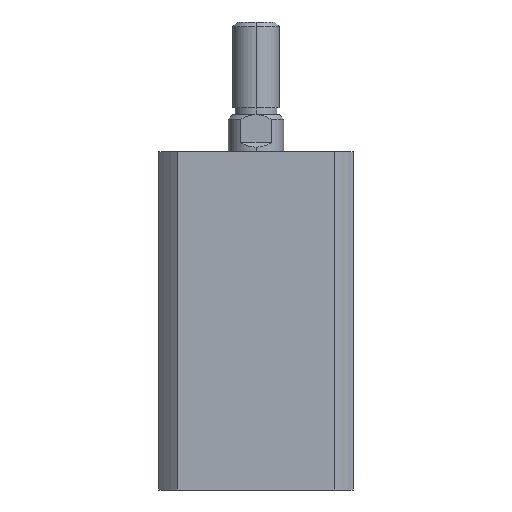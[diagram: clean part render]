
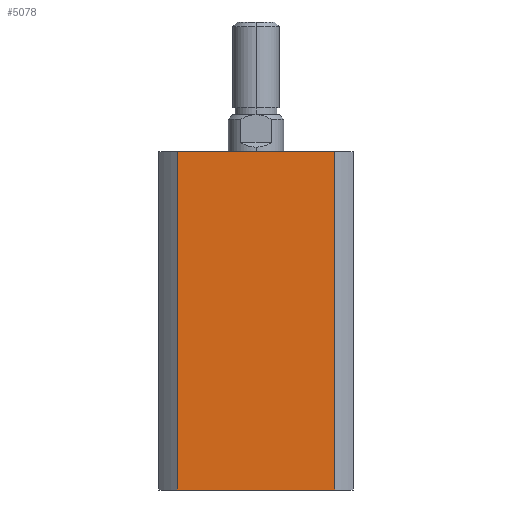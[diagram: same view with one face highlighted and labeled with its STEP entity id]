
A CAD part, left-side view. The second image highlights one B-rep face of the part: STEP entity #5078.
In plain terms, the highlighted planar face has unit normal (-1, 0, 0).
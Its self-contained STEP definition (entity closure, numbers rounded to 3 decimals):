
#174 = CARTESIAN_POINT ( 'NONE',  ( -21., 16.971, 0. ) ) ;
#254 = CARTESIAN_POINT ( 'NONE',  ( -21., -16.971, 0. ) ) ;
#869 = DIRECTION ( 'NONE',  ( 0., 1., 0. ) ) ;
#870 = DIRECTION ( 'NONE',  ( 1., 0., 0. ) ) ;
#896 = PLANE ( 'NONE',  #3380 ) ;
#920 = CARTESIAN_POINT ( 'NONE',  ( -21., 21., 73. ) ) ;
#965 = LINE ( 'NONE', #3848, #969 ) ;
#969 = VECTOR ( 'NONE', #3850, 1000. ) ;
#1113 = VECTOR ( 'NONE', #3724, 1000. ) ;
#1123 = LINE ( 'NONE', #3717, #1113 ) ;
#1137 = VECTOR ( 'NONE', #3683, 1000. ) ;
#1138 = LINE ( 'NONE', #3682, #1179 ) ;
#1141 = LINE ( 'NONE', #3685, #1137 ) ;
#1179 = VECTOR ( 'NONE', #3681, 1000. ) ;
#1432 = ORIENTED_EDGE ( 'NONE', *, *, #4167, .F. ) ;
#1433 = ORIENTED_EDGE ( 'NONE', *, *, #4158, .F. ) ;
#1434 = ORIENTED_EDGE ( 'NONE', *, *, #4168, .F. ) ;
#1435 = ORIENTED_EDGE ( 'NONE', *, *, #4123, .T. ) ;
#1828 = VERTEX_POINT ( 'NONE', #254 ) ;
#1907 = VERTEX_POINT ( 'NONE', #174 ) ;
#2266 = EDGE_LOOP ( 'NONE', ( #1432, #1433, #1434, #1435 ) ) ;
#2646 = FACE_OUTER_BOUND ( 'NONE', #2266, .T. ) ;
#3380 = AXIS2_PLACEMENT_3D ( 'NONE', #920, #870, #869 ) ;
#3681 = DIRECTION ( 'NONE',  ( 0., 0., 1. ) ) ;
#3682 = CARTESIAN_POINT ( 'NONE',  ( -21., 16.971, 73. ) ) ;
#3683 = DIRECTION ( 'NONE',  ( 0., 0., -1. ) ) ;
#3685 = CARTESIAN_POINT ( 'NONE',  ( -21., -16.971, 73. ) ) ;
#3717 = CARTESIAN_POINT ( 'NONE',  ( -21., 21., 73. ) ) ;
#3724 = DIRECTION ( 'NONE',  ( 0., -1., 0. ) ) ;
#3848 = CARTESIAN_POINT ( 'NONE',  ( -21., 21., 0. ) ) ;
#3850 = DIRECTION ( 'NONE',  ( 0., -1., 0. ) ) ;
#4123 = EDGE_CURVE ( 'NONE', #1907, #1828, #965, .T. ) ;
#4158 = EDGE_CURVE ( 'NONE', #4887, #4701, #1123, .T. ) ;
#4167 = EDGE_CURVE ( 'NONE', #4701, #1828, #1141, .T. ) ;
#4168 = EDGE_CURVE ( 'NONE', #1907, #4887, #1138, .T. ) ;
#4676 = CARTESIAN_POINT ( 'NONE',  ( -21., 16.971, 73. ) ) ;
#4701 = VERTEX_POINT ( 'NONE', #4729 ) ;
#4729 = CARTESIAN_POINT ( 'NONE',  ( -21., -16.971, 73. ) ) ;
#4887 = VERTEX_POINT ( 'NONE', #4676 ) ;
#5078 = ADVANCED_FACE ( 'NONE', ( #2646 ), #896, .F. ) ;
